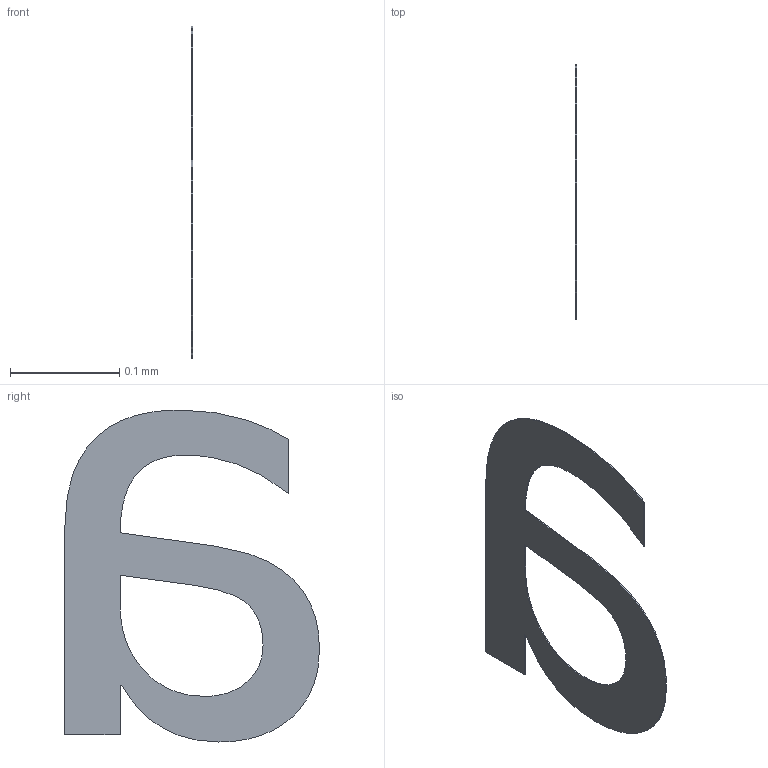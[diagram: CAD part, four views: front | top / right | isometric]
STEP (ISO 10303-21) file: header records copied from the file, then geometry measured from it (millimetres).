
FILE_DESCRIPTION(/* description */ ('STEP AP242 Edition 2','CAx-IF Rec.Pracs.---Representation and Presentation of Product Manufacturing Information (PMI)---4.0---2014-10-13','CAx-IF Rec.Pracs.---3D Tessellated Geometry---0.4---2014-09-14','2;1','CAx-IF Rec.Pracs.---User Defined Attributes---1.5---2016-08-15'),/* implementation_level */ '2;1');
FILE_NAME(/* name */ 'Assembly 1 - CONN-TH_HFBR-1521Z~CONN-TH_HFBR-1521Z~nxQB (2)',/* time_stamp */ '2026-04-02T09:55:12Z',/* author */ (''),/* organization */ (''),/* preprocessor_version */ 'ST-DEVELOPER v20',/* originating_system */ 'ONSHAPE BY PTC INC, 1.212',/* authorisation */ ' ');
FILE_SCHEMA (('AP242_MANAGED_MODEL_BASED_3D_ENGINEERING_MIM_LF { 1 0 10303 442 3 1 4 }'));
Length unit declared in the file: metre
Products named in the file (1): CONN-TH_HFBR-1521Z~CONN-TH_HFBR-1521Z~nxQB
Bounding box: 0 x 0.23 x 0.3 mm (x, y, z)
Volume: 0 mm3; surface area: 0.1 mm2
Topology: 1 solids, 1 shells, 24 faces, 66 edges, 44 vertices
Faces by surface type: bspline 14, plane 10
Entity records: 1029 total; most frequent: CARTESIAN_POINT 317, ORIENTED_EDGE 132, EDGE_CURVE 66, DIRECTION 60, VERTEX_POINT 44, LINE 38, VECTOR 38, B_SPLINE_CURVE_WITH_KNOTS 28
